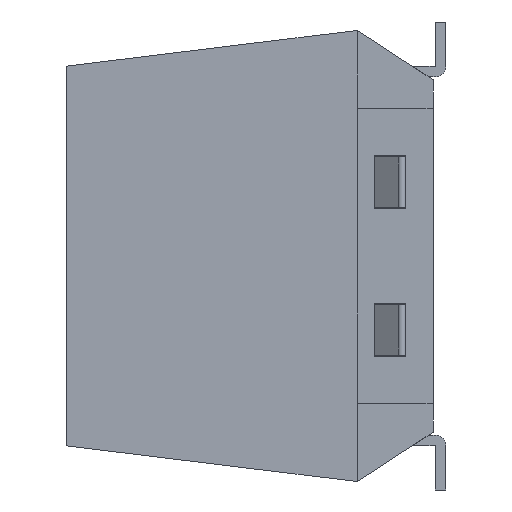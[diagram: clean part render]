
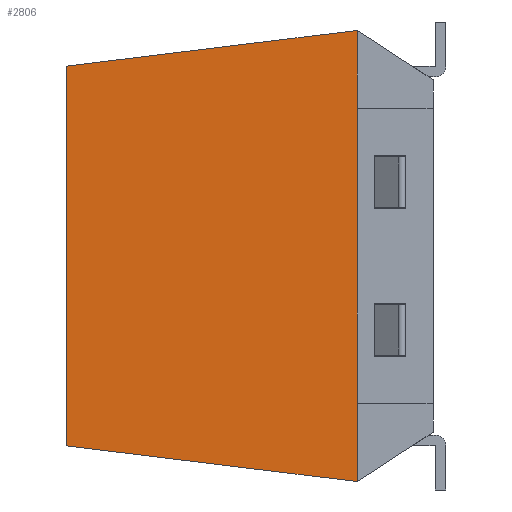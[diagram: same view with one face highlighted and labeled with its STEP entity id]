
A CAD part, left-side view. The second image highlights one B-rep face of the part: STEP entity #2806.
In plain terms, the highlighted planar face has unit normal (-1, 0.018, 0).
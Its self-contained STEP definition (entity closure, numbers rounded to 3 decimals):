
#216=FACE_OUTER_BOUND('',#384,.T.);
#384=EDGE_LOOP('',(#2497,#2498,#2499,#2500,#2501,#2502));
#713=LINE('',#4410,#1065);
#756=LINE('',#4497,#1108);
#761=LINE('',#4506,#1113);
#763=LINE('',#4509,#1115);
#764=LINE('',#4512,#1116);
#765=LINE('',#4513,#1117);
#1065=VECTOR('',#3632,10.);
#1108=VECTOR('',#3707,10.);
#1113=VECTOR('',#3716,10.);
#1115=VECTOR('',#3718,10.);
#1116=VECTOR('',#3721,10.);
#1117=VECTOR('',#3722,10.);
#1336=VERTEX_POINT('',#4403);
#1338=VERTEX_POINT('',#4409);
#1363=VERTEX_POINT('',#4490);
#1366=VERTEX_POINT('',#4495);
#1369=VERTEX_POINT('',#4507);
#1370=VERTEX_POINT('',#4511);
#1697=EDGE_CURVE('',#1336,#1338,#713,.T.);
#1740=EDGE_CURVE('',#1366,#1363,#756,.F.);
#1745=EDGE_CURVE('',#1338,#1366,#761,.T.);
#1747=EDGE_CURVE('',#1369,#1336,#763,.T.);
#1748=EDGE_CURVE('',#1370,#1369,#764,.F.);
#1749=EDGE_CURVE('',#1363,#1370,#765,.F.);
#2497=ORIENTED_EDGE('',*,*,#1747,.F.);
#2498=ORIENTED_EDGE('',*,*,#1748,.F.);
#2499=ORIENTED_EDGE('',*,*,#1749,.F.);
#2500=ORIENTED_EDGE('',*,*,#1740,.F.);
#2501=ORIENTED_EDGE('',*,*,#1745,.F.);
#2502=ORIENTED_EDGE('',*,*,#1697,.F.);
#2650=PLANE('',#3003);
#2806=ADVANCED_FACE('',(#216),#2650,.T.);
#3003=AXIS2_PLACEMENT_3D('',#4510,#3719,#3720);
#3632=DIRECTION('',(0.,0.,-1.));
#3707=DIRECTION('',(-0.017,-0.992,-0.122));
#3716=DIRECTION('',(0.,0.,-1.));
#3718=DIRECTION('',(0.,0.,-1.));
#3719=DIRECTION('center_axis',(-1.,0.017,0.));
#3720=DIRECTION('ref_axis',(-0.017,-1.,0.));
#3721=DIRECTION('',(0.017,0.992,-0.122));
#3722=DIRECTION('',(0.,0.,-1.));
#4403=CARTESIAN_POINT('',(-7.62,1.8,3.5));
#4409=CARTESIAN_POINT('',(-7.62,1.8,-3.492));
#4410=CARTESIAN_POINT('',(-7.62,1.8,0.));
#4490=CARTESIAN_POINT('',(-7.5,8.7,-4.503));
#4495=CARTESIAN_POINT('',(-7.62,1.8,-5.35));
#4497=CARTESIAN_POINT('',(-7.524,7.299,-4.675));
#4506=CARTESIAN_POINT('',(-7.62,1.8,0.));
#4507=CARTESIAN_POINT('',(-7.62,1.8,5.35));
#4509=CARTESIAN_POINT('',(-7.62,1.8,0.));
#4510=CARTESIAN_POINT('Origin',(-7.5,8.699,0.));
#4511=CARTESIAN_POINT('',(-7.5,8.7,4.503));
#4512=CARTESIAN_POINT('',(-7.524,7.299,4.675));
#4513=CARTESIAN_POINT('',(-7.5,8.7,0.));
